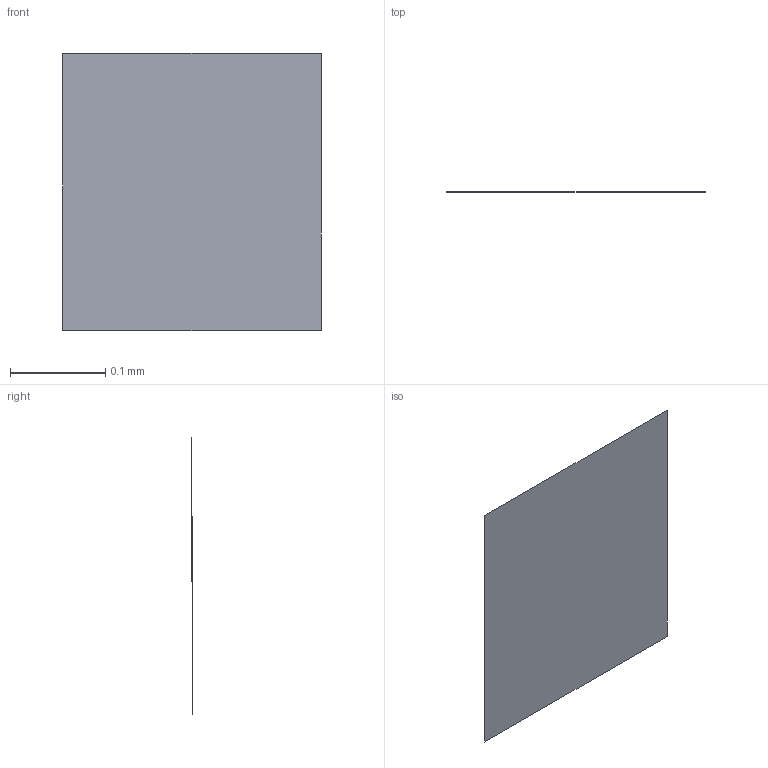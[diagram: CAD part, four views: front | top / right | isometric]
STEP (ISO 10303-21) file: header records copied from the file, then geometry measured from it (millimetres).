
FILE_DESCRIPTION(/* description */ ('STEP AP242 Edition 2','CAx-IF Rec.Pracs.---Representation and Presentation of Product Manufacturing Information (PMI)---4.0---2014-10-13','CAx-IF Rec.Pracs.---3D Tessellated Geometry---0.4---2014-09-14','2;1','CAx-IF Rec.Pracs.---User Defined Attributes---1.5---2016-08-15'),/* implementation_level */ '2;1');
FILE_NAME(/* name */ 'Assembly 1 - Part 63',/* time_stamp */ '2026-03-29T21:14:58Z',/* author */ (''),/* organization */ (''),/* preprocessor_version */ 'ST-DEVELOPER v20',/* originating_system */ 'ONSHAPE BY PTC INC, 1.212',/* authorisation */ ' ');
FILE_SCHEMA (('AP242_MANAGED_MODEL_BASED_3D_ENGINEERING_MIM_LF { 1 0 10303 442 3 1 4 }'));
Length unit declared in the file: metre
Products named in the file (1): Part 63
Bounding box: 0.27 x 0 x 0.29 mm (x, y, z)
Surface area: 0.2 mm2 (no closed solid volume)
Topology: 0 solids, 1 shells, 1 faces, 0 edges, 0 vertices
Faces by surface type: other 1
Entity records: 31 total; most frequent: DIRECTION 2, SHAPE_REPRESENTATION_RELATIONSHIP 1, TESSELLATED_SHAPE_REPRESENTATION 1, STYLED_ITEM 1, PRESENTATION_STYLE_ASSIGNMENT 1, SURFACE_STYLE_USAGE 1, SURFACE_SIDE_STYLE 1, SURFACE_STYLE_FILL_AREA 1
